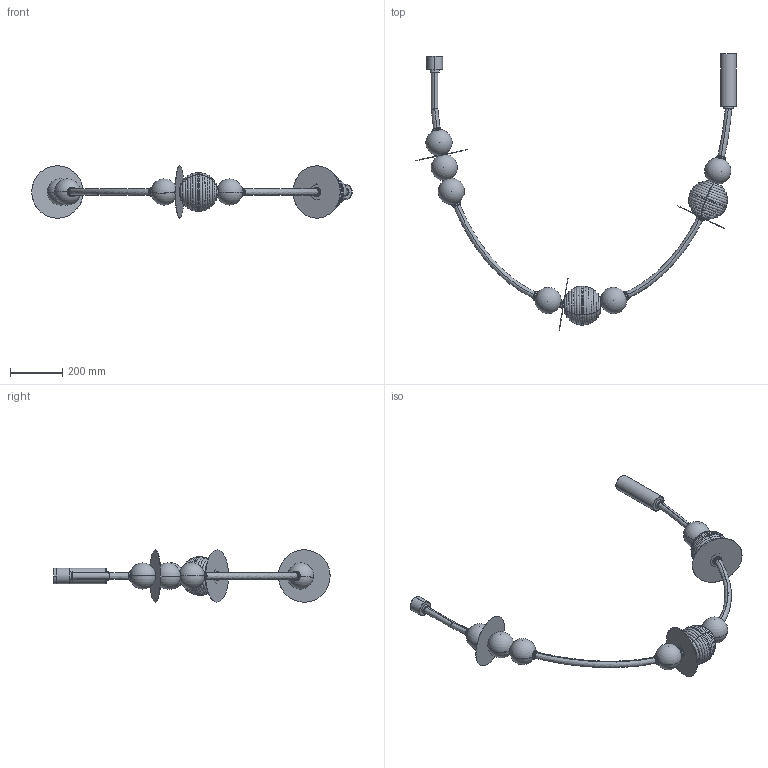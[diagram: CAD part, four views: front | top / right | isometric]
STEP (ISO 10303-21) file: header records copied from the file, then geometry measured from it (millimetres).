
FILE_DESCRIPTION (( 'STEP AP214' ), '1' );
FILE_NAME ('YMA_C1347_H_2M.STEP', '2026-08-13T14:15:55', ( '' ), ( '' ), 'SwSTEP 2.0', 'SolidWorks 2023', '' );
FILE_SCHEMA (( 'AUTOMOTIVE_DESIGN' ));
Length unit declared in the file: millimetre
Products named in the file (6): 1347_ball_10; 1347_14T (curly ball); 1347_tapa; YMA_C1347_TUBE_2M; YMA_C1347_H_2M; 1347_disc20
Assembly tree (19 placements, depth 2):
  YMA_C1347_H_2M
    YMA_C1347_TUBE_2M
    1347_tapa  x7
    1347_ball_10  x6
    1347_disc20  x3
    1347_14T (curly ball)  x2
Bounding box: 1222.19 x 1053.3 x 200 mm (x, y, z)
Volume: 908788.2 mm3; surface area: 1301347.6 mm2
Topology: 21 solids, 21 shells, 364 faces, 830 edges, 512 vertices
Faces by surface type: torus 128, cylinder 122, plane 70, sphere 24, cone 16, bspline 4
Entity records: 13259 total; most frequent: CARTESIAN_POINT 9594, DIRECTION 878, ORIENTED_EDGE 612, AXIS2_PLACEMENT_3D 414, EDGE_CURVE 306, CIRCLE 244, VERTEX_POINT 184, EDGE_LOOP 176
